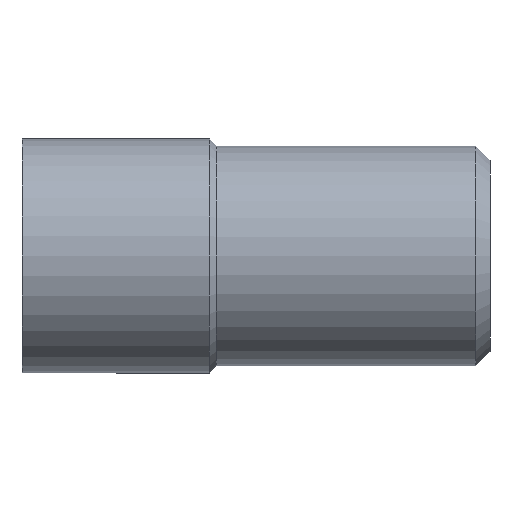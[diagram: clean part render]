
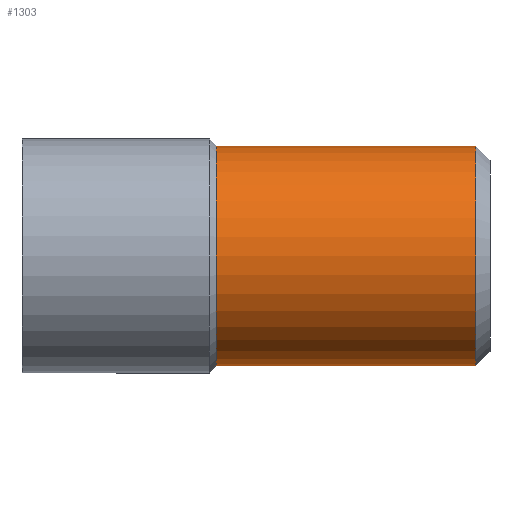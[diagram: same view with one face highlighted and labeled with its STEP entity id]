
A CAD part, left-side view. The second image highlights one B-rep face of the part: STEP entity #1303.
In plain terms, the highlighted cylindrical face has radius 2.35 mm (diameter 4.7 mm), a partial arc.
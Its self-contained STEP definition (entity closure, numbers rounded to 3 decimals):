
#48 = ORIENTED_EDGE ( 'NONE', *, *, #1433, .F. ) ;
#78 = DIRECTION ( 'NONE',  ( 0., 1., 0. ) ) ;
#95 = CARTESIAN_POINT ( 'NONE',  ( 0., -4.15, 0. ) ) ;
#109 = VERTEX_POINT ( 'NONE', #2260 ) ;
#166 = AXIS2_PLACEMENT_3D ( 'NONE', #1847, #2211, #952 ) ;
#214 = ORIENTED_EDGE ( 'NONE', *, *, #1783, .T. ) ;
#275 = DIRECTION ( 'NONE',  ( 0., 0., 1. ) ) ;
#281 = AXIS2_PLACEMENT_3D ( 'NONE', #95, #1335, #275 ) ;
#286 = CIRCLE ( 'NONE', #433, 2.35 ) ;
#316 = EDGE_CURVE ( 'NONE', #2029, #109, #553, .T. ) ;
#395 = FACE_OUTER_BOUND ( 'NONE', #2306, .T. ) ;
#433 = AXIS2_PLACEMENT_3D ( 'NONE', #1712, #463, #1890 ) ;
#438 = DIRECTION ( 'NONE',  ( 0., 1., 0. ) ) ;
#463 = DIRECTION ( 'NONE',  ( 0., 1., 0. ) ) ;
#553 = LINE ( 'NONE', #1887, #1031 ) ;
#594 = LINE ( 'NONE', #960, #1010 ) ;
#869 = EDGE_CURVE ( 'NONE', #2029, #1469, #286, .T. ) ;
#952 = DIRECTION ( 'NONE',  ( 0., 0., 1. ) ) ;
#960 = CARTESIAN_POINT ( 'NONE',  ( 0., 3.29, 2.35 ) ) ;
#1010 = VECTOR ( 'NONE', #438, 1000. ) ;
#1031 = VECTOR ( 'NONE', #78, 1000. ) ;
#1163 = ORIENTED_EDGE ( 'NONE', *, *, #316, .F. ) ;
#1183 = CARTESIAN_POINT ( 'NONE',  ( 0., -9.7, -2.35 ) ) ;
#1303 = ADVANCED_FACE ( 'NONE', ( #395 ), #1655, .T. ) ;
#1335 = DIRECTION ( 'NONE',  ( 0., 1., 0. ) ) ;
#1433 = EDGE_CURVE ( 'NONE', #109, #1824, #1601, .T. ) ;
#1469 = VERTEX_POINT ( 'NONE', #1685 ) ;
#1601 = CIRCLE ( 'NONE', #281, 2.35 ) ;
#1655 = CYLINDRICAL_SURFACE ( 'NONE', #166, 2.35 ) ;
#1663 = ORIENTED_EDGE ( 'NONE', *, *, #869, .T. ) ;
#1685 = CARTESIAN_POINT ( 'NONE',  ( 0., -9.7, 2.35 ) ) ;
#1712 = CARTESIAN_POINT ( 'NONE',  ( 0., -9.7, 0. ) ) ;
#1783 = EDGE_CURVE ( 'NONE', #1469, #1824, #594, .T. ) ;
#1824 = VERTEX_POINT ( 'NONE', #1902 ) ;
#1847 = CARTESIAN_POINT ( 'NONE',  ( 0., 3.29, 0. ) ) ;
#1887 = CARTESIAN_POINT ( 'NONE',  ( 0., 3.29, -2.35 ) ) ;
#1890 = DIRECTION ( 'NONE',  ( 0., 0., 1. ) ) ;
#1902 = CARTESIAN_POINT ( 'NONE',  ( 0., -4.15, 2.35 ) ) ;
#2029 = VERTEX_POINT ( 'NONE', #1183 ) ;
#2211 = DIRECTION ( 'NONE',  ( 0., 1., 0. ) ) ;
#2260 = CARTESIAN_POINT ( 'NONE',  ( 0., -4.15, -2.35 ) ) ;
#2306 = EDGE_LOOP ( 'NONE', ( #1163, #1663, #214, #48 ) ) ;
